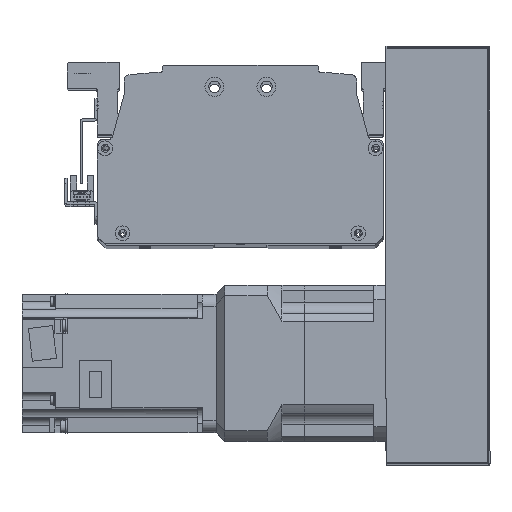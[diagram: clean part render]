
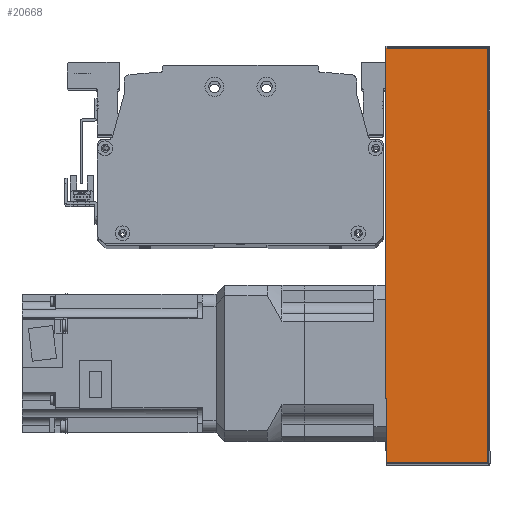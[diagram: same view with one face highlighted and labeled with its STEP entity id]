
A CAD part, top view. The second image highlights one B-rep face of the part: STEP entity #20668.
In plain terms, the highlighted planar face has unit normal (0, 0, 1) as drawn and (0, 1, 0) by its records, which use the part's own axes.
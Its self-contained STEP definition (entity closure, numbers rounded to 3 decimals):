
#554=PLANE('',#22520);
#1685=LINE('',#32849,#3345);
#1704=LINE('',#32933,#3364);
#1706=LINE('',#32943,#3366);
#1707=LINE('',#32945,#3367);
#3345=VECTOR('',#26714,10.);
#3364=VECTOR('',#26827,10.);
#3366=VECTOR('',#26841,10.);
#3367=VECTOR('',#26844,10.);
#5351=FACE_OUTER_BOUND('',#6779,.T.);
#6779=EDGE_LOOP('',(#16220,#16221,#16222,#16223));
#9643=VERTEX_POINT('',#32846);
#9644=VERTEX_POINT('',#32848);
#9661=VERTEX_POINT('',#32927);
#9664=VERTEX_POINT('',#32939);
#11999=EDGE_CURVE('',#9644,#9643,#1685,.T.);
#12042=EDGE_CURVE('',#9661,#9644,#1704,.T.);
#12047=EDGE_CURVE('',#9643,#9664,#1706,.T.);
#12048=EDGE_CURVE('',#9664,#9661,#1707,.T.);
#16220=ORIENTED_EDGE('',*,*,#12042,.T.);
#16221=ORIENTED_EDGE('',*,*,#11999,.T.);
#16222=ORIENTED_EDGE('',*,*,#12047,.T.);
#16223=ORIENTED_EDGE('',*,*,#12048,.T.);
#20668=ADVANCED_FACE('',(#5351),#554,.F.);
#22520=AXIS2_PLACEMENT_3D('',#32952,#26853,#26854);
#26714=DIRECTION('',(-1.,0.,0.));
#26827=DIRECTION('',(0.,0.,-1.));
#26841=DIRECTION('',(0.,0.,1.));
#26844=DIRECTION('',(1.,0.,0.));
#26853=DIRECTION('center_axis',(0.,-1.,0.));
#26854=DIRECTION('ref_axis',(-1.,0.,0.));
#32846=CARTESIAN_POINT('',(-120.,51.,-30.));
#32848=CARTESIAN_POINT('',(120.,51.,-30.));
#32849=CARTESIAN_POINT('',(-121.,51.,-30.));
#32927=CARTESIAN_POINT('',(120.,51.,29.));
#32933=CARTESIAN_POINT('',(120.,51.,0.));
#32939=CARTESIAN_POINT('',(-120.,51.,29.));
#32943=CARTESIAN_POINT('',(-120.,51.,0.));
#32945=CARTESIAN_POINT('',(60.5,51.,29.));
#32952=CARTESIAN_POINT('Origin',(121.,51.,0.));
